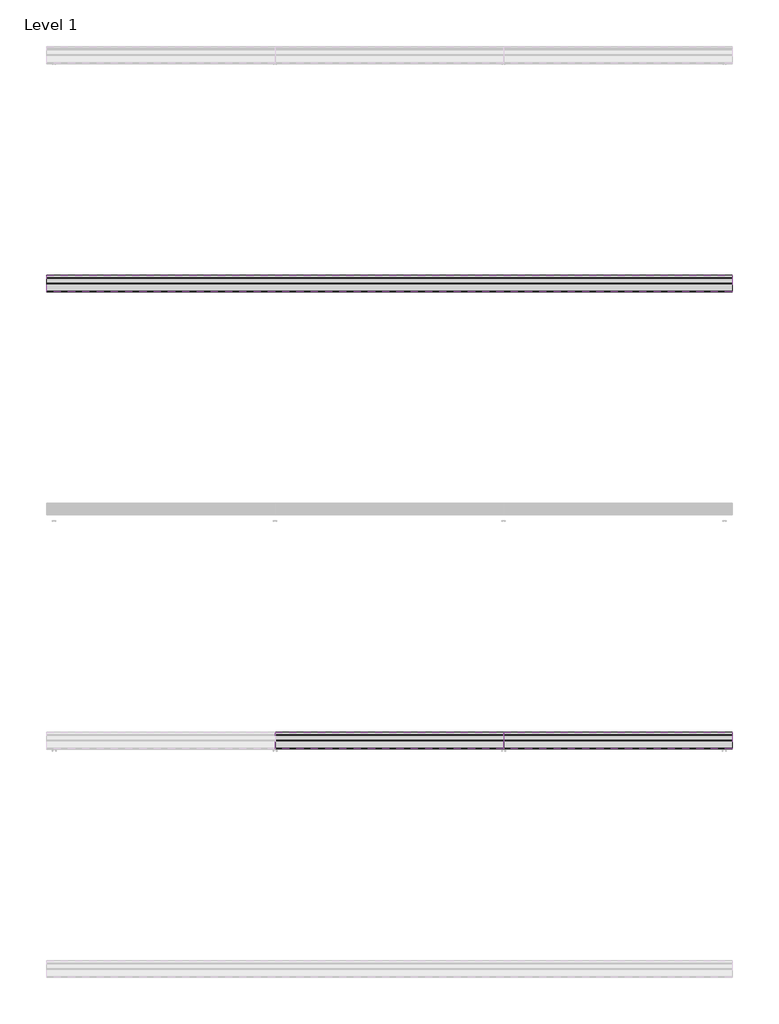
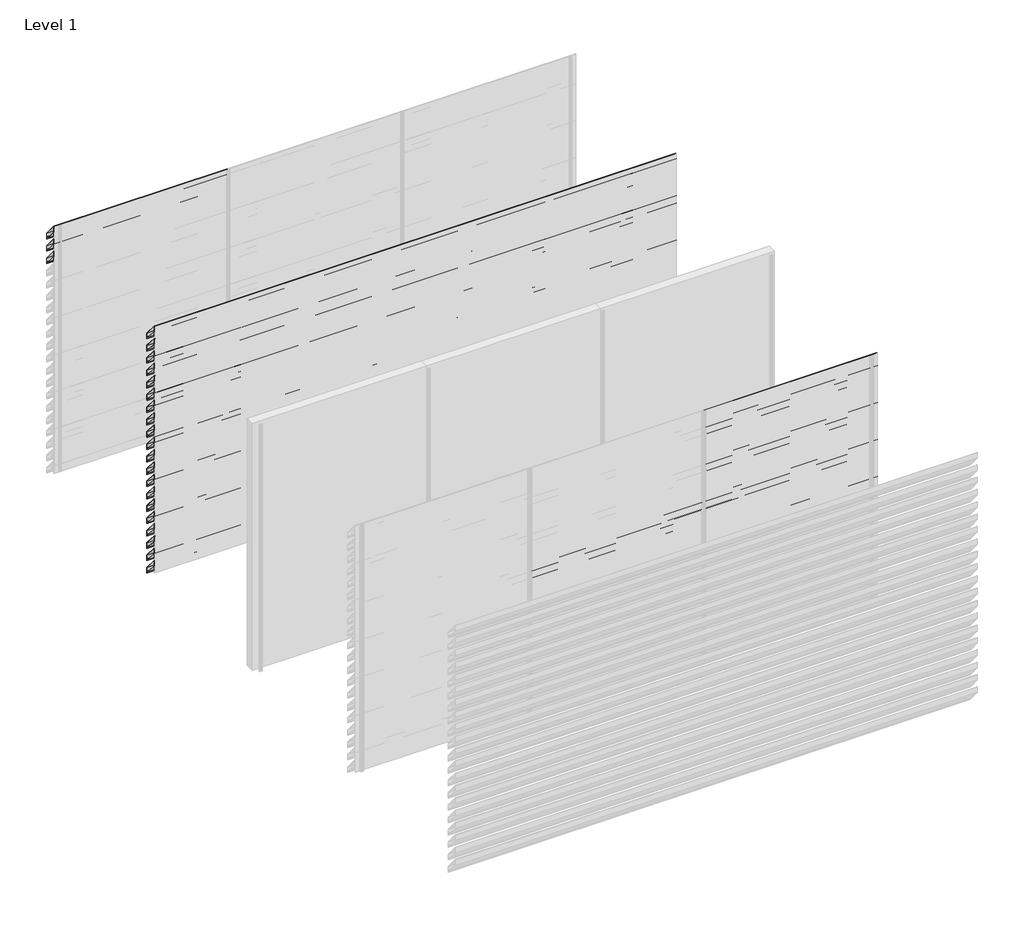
# One storey, part 15 of 16: 56 proxies.
"""IFC4 building model written with IfcOpenShell, lengths in millimetres."""

from ifc_helpers import new_model, si_unit, frame, origin, place, context, project, spatial, polyline, outline, extrude, element, save

model = new_model("IFC4")

# Units and contexts
model_context = context("Model", 3, world=origin())
ifc_project = project(units=[si_unit("LENGTHUNIT", "METRE", prefix="MILLI")], contexts=[model_context])

# Site, building, storey
site = spatial("IfcSite", under=ifc_project)
building = spatial("IfcBuilding", under=site)
storey = spatial("IfcBuildingStorey", under=building, Name="Level 1", Elevation=0.0)

# Proxies
placement = place(None, origin())
element("IfcBuildingElementProxy", 1, Name="Wall Sweeps", at=placement, inside=storey, context=model_context, shape_type="SweptSolid", body=[
    extrude(outline(polyline([(149.0, 2830.0), (149.0, 2761.0), (146.5, 2762.1657691), (146.5, 2775.7059843), (129.7501329, 2795.6676986), (119.0648935, 2795.6676986), (2.0, 2935.1802059), (2.0, 3000.0), (6.3530627, 3000.0), (149.0, 2830.0)]), holes=[polyline([(3.9, 2998.1), (3.9, 2935.8717493), (119.950878, 2797.5676986), (130.6361175, 2797.5676986), (147.1, 2777.9468074), (147.1, 2829.3084566), (5.4670781, 2998.1), (3.9, 2998.1)])]), frame((0.0, 0.0, 0.0), z_axis=(1.0, 0.0, 0.0), x_axis=(0.0, 1.0, 0.0)), (0.0, 0.0, 1.0), 2000.0),
])
element("IfcBuildingElementProxy", 2, Name="Wall Sweeps", at=placement, inside=storey, context=model_context, shape_type="SweptSolid", body=[
    extrude(outline(polyline([(149.0, 2680.0), (149.0, 2611.0), (146.5, 2612.1657691), (146.5, 2625.7059843), (129.7501329, 2645.6676986), (119.0648935, 2645.6676986), (2.0, 2785.1802059), (2.0, 2850.0), (6.3530627, 2850.0), (149.0, 2680.0)]), holes=[polyline([(3.9, 2848.1), (3.9, 2785.8717493), (119.950878, 2647.5676986), (130.6361175, 2647.5676986), (147.1, 2627.9468074), (147.1, 2679.3084566), (5.4670781, 2848.1), (3.9, 2848.1)])]), frame((0.0, 0.0, 0.0), z_axis=(1.0, 0.0, 0.0), x_axis=(0.0, 1.0, 0.0)), (0.0, 0.0, 1.0), 2000.0),
])
element("IfcBuildingElementProxy", 3, Name="Wall Sweeps", at=placement, inside=storey, context=model_context, shape_type="SweptSolid", body=[
    extrude(outline(polyline([(149.0, 2530.0), (149.0, 2461.0), (146.5, 2462.1657691), (146.5, 2475.7059843), (129.7501329, 2495.6676986), (119.0648935, 2495.6676986), (2.0, 2635.1802059), (2.0, 2700.0), (6.3530627, 2700.0), (149.0, 2530.0)]), holes=[polyline([(3.9, 2698.1), (3.9, 2635.8717493), (119.950878, 2497.5676986), (130.6361175, 2497.5676986), (147.1, 2477.9468074), (147.1, 2529.3084566), (5.4670781, 2698.1), (3.9, 2698.1)])]), frame((0.0, 0.0, 0.0), z_axis=(1.0, 0.0, 0.0), x_axis=(0.0, 1.0, 0.0)), (0.0, 0.0, 1.0), 2000.0),
])
element("IfcBuildingElementProxy", 4, Name="Wall Sweeps", at=placement, inside=storey, context=model_context, shape_type="SweptSolid", body=[
    extrude(outline(polyline([(-1851.0, 2830.0), (-1851.0, 2761.0), (-1853.5, 2762.1657691), (-1853.5, 2775.7059843), (-1870.2498671, 2795.6676986), (-1880.9351065, 2795.6676986), (-1998.0, 2935.1802059), (-1998.0, 3000.0), (-1993.6469373, 3000.0), (-1851.0, 2830.0)]), holes=[polyline([(-1996.1, 2998.1), (-1996.1, 2935.8717493), (-1880.049122, 2797.5676986), (-1869.3638825, 2797.5676986), (-1852.9, 2777.9468074), (-1852.9, 2829.3084566), (-1994.5329219, 2998.1), (-1996.1, 2998.1)])]), frame((0.0, 0.0, 0.0), z_axis=(1.0, 0.0, 0.0), x_axis=(0.0, 1.0, 0.0)), (0.0, 0.0, 1.0), 6000.0),
])
element("IfcBuildingElementProxy", 5, Name="Wall Sweeps", at=placement, inside=storey, context=model_context, shape_type="SweptSolid", body=[
    extrude(outline(polyline([(-1851.0, 2680.0), (-1851.0, 2611.0), (-1853.5, 2612.1657691), (-1853.5, 2625.7059843), (-1870.2498671, 2645.6676986), (-1880.9351065, 2645.6676986), (-1998.0, 2785.1802059), (-1998.0, 2850.0), (-1993.6469373, 2850.0), (-1851.0, 2680.0)]), holes=[polyline([(-1996.1, 2848.1), (-1996.1, 2785.8717493), (-1880.049122, 2647.5676986), (-1869.3638825, 2647.5676986), (-1852.9, 2627.9468074), (-1852.9, 2679.3084566), (-1994.5329219, 2848.1), (-1996.1, 2848.1)])]), frame((0.0, 0.0, 0.0), z_axis=(1.0, 0.0, 0.0), x_axis=(0.0, 1.0, 0.0)), (0.0, 0.0, 1.0), 6000.0),
])
element("IfcBuildingElementProxy", 6, Name="Wall Sweeps", at=placement, inside=storey, context=model_context, shape_type="SweptSolid", body=[
    extrude(outline(polyline([(-1851.0, 2530.0), (-1851.0, 2461.0), (-1853.5, 2462.1657691), (-1853.5, 2475.7059843), (-1870.2498671, 2495.6676986), (-1880.9351065, 2495.6676986), (-1998.0, 2635.1802059), (-1998.0, 2700.0), (-1993.6469373, 2700.0), (-1851.0, 2530.0)]), holes=[polyline([(-1996.1, 2698.1), (-1996.1, 2635.8717493), (-1880.049122, 2497.5676986), (-1869.3638825, 2497.5676986), (-1852.9, 2477.9468074), (-1852.9, 2529.3084566), (-1994.5329219, 2698.1), (-1996.1, 2698.1)])]), frame((0.0, 0.0, 0.0), z_axis=(1.0, 0.0, 0.0), x_axis=(0.0, 1.0, 0.0)), (0.0, 0.0, 1.0), 6000.0),
])
element("IfcBuildingElementProxy", 7, Name="Wall Sweeps", at=placement, inside=storey, context=model_context, shape_type="SweptSolid", body=[
    extrude(outline(polyline([(-1851.0, 2380.0), (-1851.0, 2311.0), (-1853.5, 2312.1657691), (-1853.5, 2325.7059843), (-1870.2498671, 2345.6676986), (-1880.9351065, 2345.6676986), (-1998.0, 2485.1802059), (-1998.0, 2550.0), (-1993.6469373, 2550.0), (-1851.0, 2380.0)]), holes=[polyline([(-1996.1, 2548.1), (-1996.1, 2485.8717493), (-1880.049122, 2347.5676986), (-1869.3638825, 2347.5676986), (-1852.9, 2327.9468074), (-1852.9, 2379.3084566), (-1994.5329219, 2548.1), (-1996.1, 2548.1)])]), frame((0.0, 0.0, 0.0), z_axis=(1.0, 0.0, 0.0), x_axis=(0.0, 1.0, 0.0)), (0.0, 0.0, 1.0), 6000.0),
])
element("IfcBuildingElementProxy", 8, Name="Wall Sweeps", at=placement, inside=storey, context=model_context, shape_type="SweptSolid", body=[
    extrude(outline(polyline([(-1851.0, 2230.0), (-1851.0, 2161.0), (-1853.5, 2162.1657691), (-1853.5, 2175.7059843), (-1870.2498671, 2195.6676986), (-1880.9351065, 2195.6676986), (-1998.0, 2335.1802059), (-1998.0, 2400.0), (-1993.6469373, 2400.0), (-1851.0, 2230.0)]), holes=[polyline([(-1996.1, 2398.1), (-1996.1, 2335.8717493), (-1880.049122, 2197.5676986), (-1869.3638825, 2197.5676986), (-1852.9, 2177.9468074), (-1852.9, 2229.3084566), (-1994.5329219, 2398.1), (-1996.1, 2398.1)])]), frame((0.0, 0.0, 0.0), z_axis=(1.0, 0.0, 0.0), x_axis=(0.0, 1.0, 0.0)), (0.0, 0.0, 1.0), 6000.0),
])
element("IfcBuildingElementProxy", 9, Name="Wall Sweeps", at=placement, inside=storey, context=model_context, shape_type="SweptSolid", body=[
    extrude(outline(polyline([(-1851.0, 2080.0), (-1851.0, 2011.0), (-1853.5, 2012.1657691), (-1853.5, 2025.7059843), (-1870.2498671, 2045.6676986), (-1880.9351065, 2045.6676986), (-1998.0, 2185.1802059), (-1998.0, 2250.0), (-1993.6469373, 2250.0), (-1851.0, 2080.0)]), holes=[polyline([(-1996.1, 2248.1), (-1996.1, 2185.8717493), (-1880.049122, 2047.5676986), (-1869.3638825, 2047.5676986), (-1852.9, 2027.9468074), (-1852.9, 2079.3084566), (-1994.5329219, 2248.1), (-1996.1, 2248.1)])]), frame((0.0, 0.0, 0.0), z_axis=(1.0, 0.0, 0.0), x_axis=(0.0, 1.0, 0.0)), (0.0, 0.0, 1.0), 6000.0),
])
element("IfcBuildingElementProxy", 10, Name="Wall Sweeps", at=placement, inside=storey, context=model_context, shape_type="SweptSolid", body=[
    extrude(outline(polyline([(-1851.0, 1930.0), (-1851.0, 1861.0), (-1853.5, 1862.1657691), (-1853.5, 1875.7059843), (-1870.2498671, 1895.6676986), (-1880.9351065, 1895.6676986), (-1998.0, 2035.1802059), (-1998.0, 2100.0), (-1993.6469373, 2100.0), (-1851.0, 1930.0)]), holes=[polyline([(-1996.1, 2098.1), (-1996.1, 2035.8717493), (-1880.049122, 1897.5676986), (-1869.3638825, 1897.5676986), (-1852.9, 1877.9468074), (-1852.9, 1929.3084566), (-1994.5329219, 2098.1), (-1996.1, 2098.1)])]), frame((0.0, 0.0, 0.0), z_axis=(1.0, 0.0, 0.0), x_axis=(0.0, 1.0, 0.0)), (0.0, 0.0, 1.0), 6000.0),
])
element("IfcBuildingElementProxy", 11, Name="Wall Sweeps", at=placement, inside=storey, context=model_context, shape_type="SweptSolid", body=[
    extrude(outline(polyline([(-1851.0, 1780.0), (-1851.0, 1711.0), (-1853.5, 1712.1657691), (-1853.5, 1725.7059843), (-1870.2498671, 1745.6676986), (-1880.9351065, 1745.6676986), (-1998.0, 1885.1802059), (-1998.0, 1950.0), (-1993.6469373, 1950.0), (-1851.0, 1780.0)]), holes=[polyline([(-1996.1, 1948.1), (-1996.1, 1885.8717493), (-1880.049122, 1747.5676986), (-1869.3638825, 1747.5676986), (-1852.9, 1727.9468074), (-1852.9, 1779.3084566), (-1994.5329219, 1948.1), (-1996.1, 1948.1)])]), frame((0.0, 0.0, 0.0), z_axis=(1.0, 0.0, 0.0), x_axis=(0.0, 1.0, 0.0)), (0.0, 0.0, 1.0), 6000.0),
])
element("IfcBuildingElementProxy", 12, Name="Wall Sweeps", at=placement, inside=storey, context=model_context, shape_type="SweptSolid", body=[
    extrude(outline(polyline([(-1851.0, 1630.0), (-1851.0, 1561.0), (-1853.5, 1562.1657691), (-1853.5, 1575.7059843), (-1870.2498671, 1595.6676986), (-1880.9351065, 1595.6676986), (-1998.0, 1735.1802059), (-1998.0, 1800.0), (-1993.6469373, 1800.0), (-1851.0, 1630.0)]), holes=[polyline([(-1996.1, 1798.1), (-1996.1, 1735.8717493), (-1880.049122, 1597.5676986), (-1869.3638825, 1597.5676986), (-1852.9, 1577.9468074), (-1852.9, 1629.3084566), (-1994.5329219, 1798.1), (-1996.1, 1798.1)])]), frame((0.0, 0.0, 0.0), z_axis=(1.0, 0.0, 0.0), x_axis=(0.0, 1.0, 0.0)), (0.0, 0.0, 1.0), 6000.0),
])
element("IfcBuildingElementProxy", 13, Name="Wall Sweeps", at=placement, inside=storey, context=model_context, shape_type="SweptSolid", body=[
    extrude(outline(polyline([(-1851.0, 1480.0), (-1851.0, 1411.0), (-1853.5, 1412.1657691), (-1853.5, 1425.7059843), (-1870.2498671, 1445.6676986), (-1880.9351065, 1445.6676986), (-1998.0, 1585.1802059), (-1998.0, 1650.0), (-1993.6469373, 1650.0), (-1851.0, 1480.0)]), holes=[polyline([(-1996.1, 1648.1), (-1996.1, 1585.8717493), (-1880.049122, 1447.5676986), (-1869.3638825, 1447.5676986), (-1852.9, 1427.9468074), (-1852.9, 1479.3084566), (-1994.5329219, 1648.1), (-1996.1, 1648.1)])]), frame((0.0, 0.0, 0.0), z_axis=(1.0, 0.0, 0.0), x_axis=(0.0, 1.0, 0.0)), (0.0, 0.0, 1.0), 6000.0),
])
element("IfcBuildingElementProxy", 14, Name="Wall Sweeps", at=placement, inside=storey, context=model_context, shape_type="SweptSolid", body=[
    extrude(outline(polyline([(-1851.0, 1330.0), (-1851.0, 1261.0), (-1853.5, 1262.1657691), (-1853.5, 1275.7059843), (-1870.2498671, 1295.6676986), (-1880.9351065, 1295.6676986), (-1998.0, 1435.1802059), (-1998.0, 1500.0), (-1993.6469373, 1500.0), (-1851.0, 1330.0)]), holes=[polyline([(-1996.1, 1498.1), (-1996.1, 1435.8717493), (-1880.049122, 1297.5676986), (-1869.3638825, 1297.5676986), (-1852.9, 1277.9468074), (-1852.9, 1329.3084566), (-1994.5329219, 1498.1), (-1996.1, 1498.1)])]), frame((0.0, 0.0, 0.0), z_axis=(1.0, 0.0, 0.0), x_axis=(0.0, 1.0, 0.0)), (0.0, 0.0, 1.0), 6000.0),
])
element("IfcBuildingElementProxy", 15, Name="Wall Sweeps", at=placement, inside=storey, context=model_context, shape_type="SweptSolid", body=[
    extrude(outline(polyline([(-1851.0, 1180.0), (-1851.0, 1111.0), (-1853.5, 1112.1657691), (-1853.5, 1125.7059843), (-1870.2498671, 1145.6676986), (-1880.9351065, 1145.6676986), (-1998.0, 1285.1802059), (-1998.0, 1350.0), (-1993.6469373, 1350.0), (-1851.0, 1180.0)]), holes=[polyline([(-1996.1, 1348.1), (-1996.1, 1285.8717493), (-1880.049122, 1147.5676986), (-1869.3638825, 1147.5676986), (-1852.9, 1127.9468074), (-1852.9, 1179.3084566), (-1994.5329219, 1348.1), (-1996.1, 1348.1)])]), frame((0.0, 0.0, 0.0), z_axis=(1.0, 0.0, 0.0), x_axis=(0.0, 1.0, 0.0)), (0.0, 0.0, 1.0), 6000.0),
])
element("IfcBuildingElementProxy", 16, Name="Wall Sweeps", at=placement, inside=storey, context=model_context, shape_type="SweptSolid", body=[
    extrude(outline(polyline([(-1851.0, 1030.0), (-1851.0, 961.0), (-1853.5, 962.1657691), (-1853.5, 975.7059843), (-1870.2498671, 995.6676986), (-1880.9351065, 995.6676986), (-1998.0, 1135.1802059), (-1998.0, 1200.0), (-1993.6469373, 1200.0), (-1851.0, 1030.0)]), holes=[polyline([(-1996.1, 1198.1), (-1996.1, 1135.8717493), (-1880.049122, 997.5676986), (-1869.3638825, 997.5676986), (-1852.9, 977.9468074), (-1852.9, 1029.3084566), (-1994.5329219, 1198.1), (-1996.1, 1198.1)])]), frame((0.0, 0.0, 0.0), z_axis=(1.0, 0.0, 0.0), x_axis=(0.0, 1.0, 0.0)), (0.0, 0.0, 1.0), 6000.0),
])
element("IfcBuildingElementProxy", 17, Name="Wall Sweeps", at=placement, inside=storey, context=model_context, shape_type="SweptSolid", body=[
    extrude(outline(polyline([(-1851.0, 880.0), (-1851.0, 811.0), (-1853.5, 812.1657691), (-1853.5, 825.7059843), (-1870.2498671, 845.6676986), (-1880.9351065, 845.6676986), (-1998.0, 985.1802059), (-1998.0, 1050.0), (-1993.6469373, 1050.0), (-1851.0, 880.0)]), holes=[polyline([(-1996.1, 1048.1), (-1996.1, 985.8717493), (-1880.049122, 847.5676986), (-1869.3638825, 847.5676986), (-1852.9, 827.9468074), (-1852.9, 879.3084566), (-1994.5329219, 1048.1), (-1996.1, 1048.1)])]), frame((0.0, 0.0, 0.0), z_axis=(1.0, 0.0, 0.0), x_axis=(0.0, 1.0, 0.0)), (0.0, 0.0, 1.0), 6000.0),
])
element("IfcBuildingElementProxy", 18, Name="Wall Sweeps", at=placement, inside=storey, context=model_context, shape_type="SweptSolid", body=[
    extrude(outline(polyline([(-1851.0, 730.0), (-1851.0, 661.0), (-1853.5, 662.1657691), (-1853.5, 675.7059843), (-1870.2498671, 695.6676986), (-1880.9351065, 695.6676986), (-1998.0, 835.1802059), (-1998.0, 900.0), (-1993.6469373, 900.0), (-1851.0, 730.0)]), holes=[polyline([(-1996.1, 898.1), (-1996.1, 835.8717493), (-1880.049122, 697.5676986), (-1869.3638825, 697.5676986), (-1852.9, 677.9468074), (-1852.9, 729.3084566), (-1994.5329219, 898.1), (-1996.1, 898.1)])]), frame((0.0, 0.0, 0.0), z_axis=(1.0, 0.0, 0.0), x_axis=(0.0, 1.0, 0.0)), (0.0, 0.0, 1.0), 6000.0),
])
element("IfcBuildingElementProxy", 19, Name="Wall Sweeps", at=placement, inside=storey, context=model_context, shape_type="SweptSolid", body=[
    extrude(outline(polyline([(-1851.0, 580.0), (-1851.0, 511.0), (-1853.5, 512.1657691), (-1853.5, 525.7059843), (-1870.2498671, 545.6676986), (-1880.9351065, 545.6676986), (-1998.0, 685.1802059), (-1998.0, 750.0), (-1993.6469373, 750.0), (-1851.0, 580.0)]), holes=[polyline([(-1996.1, 748.1), (-1996.1, 685.8717493), (-1880.049122, 547.5676986), (-1869.3638825, 547.5676986), (-1852.9, 527.9468074), (-1852.9, 579.3084566), (-1994.5329219, 748.1), (-1996.1, 748.1)])]), frame((0.0, 0.0, 0.0), z_axis=(1.0, 0.0, 0.0), x_axis=(0.0, 1.0, 0.0)), (0.0, 0.0, 1.0), 6000.0),
])
element("IfcBuildingElementProxy", 20, Name="Wall Sweeps", at=placement, inside=storey, context=model_context, shape_type="SweptSolid", body=[
    extrude(outline(polyline([(-1851.0, 430.0), (-1851.0, 361.0), (-1853.5, 362.1657691), (-1853.5, 375.7059843), (-1870.2498671, 395.6676986), (-1880.9351065, 395.6676986), (-1998.0, 535.1802059), (-1998.0, 600.0), (-1993.6469373, 600.0), (-1851.0, 430.0)]), holes=[polyline([(-1996.1, 598.1), (-1996.1, 535.8717493), (-1880.049122, 397.5676986), (-1869.3638825, 397.5676986), (-1852.9, 377.9468074), (-1852.9, 429.3084566), (-1994.5329219, 598.1), (-1996.1, 598.1)])]), frame((0.0, 0.0, 0.0), z_axis=(1.0, 0.0, 0.0), x_axis=(0.0, 1.0, 0.0)), (0.0, 0.0, 1.0), 6000.0),
])
element("IfcBuildingElementProxy", 21, Name="Wall Sweeps", at=placement, inside=storey, context=model_context, shape_type="SweptSolid", body=[
    extrude(outline(polyline([(-1851.0, 280.0), (-1851.0, 211.0), (-1853.5, 212.1657691), (-1853.5, 225.7059843), (-1870.2498671, 245.6676986), (-1880.9351065, 245.6676986), (-1998.0, 385.1802059), (-1998.0, 450.0), (-1993.6469373, 450.0), (-1851.0, 280.0)]), holes=[polyline([(-1996.1, 448.1), (-1996.1, 385.8717493), (-1880.049122, 247.5676986), (-1869.3638825, 247.5676986), (-1852.9, 227.9468074), (-1852.9, 279.3084566), (-1994.5329219, 448.1), (-1996.1, 448.1)])]), frame((0.0, 0.0, 0.0), z_axis=(1.0, 0.0, 0.0), x_axis=(0.0, 1.0, 0.0)), (0.0, 0.0, 1.0), 6000.0),
])
element("IfcBuildingElementProxy", 22, Name="Wall Sweeps", at=placement, inside=storey, context=model_context, shape_type="SweptSolid", body=[
    extrude(outline(polyline([(-1851.0, 130.0), (-1851.0, 61.0), (-1853.5, 62.1657691), (-1853.5, 75.7059843), (-1870.2498671, 95.6676986), (-1880.9351065, 95.6676986), (-1998.0, 235.1802059), (-1998.0, 300.0), (-1993.6469373, 300.0), (-1851.0, 130.0)]), holes=[polyline([(-1996.1, 298.1), (-1996.1, 235.8717493), (-1880.049122, 97.5676986), (-1869.3638825, 97.5676986), (-1852.9, 77.9468074), (-1852.9, 129.3084566), (-1994.5329219, 298.1), (-1996.1, 298.1)])]), frame((0.0, 0.0, 0.0), z_axis=(1.0, 0.0, 0.0), x_axis=(0.0, 1.0, 0.0)), (0.0, 0.0, 1.0), 6000.0),
])
element("IfcBuildingElementProxy", 23, Name="Wall Sweeps", at=placement, inside=storey, context=model_context, shape_type="SweptSolid", body=[
    extrude(outline(polyline([(-1851.0, -20.0), (-1851.0, -89.0), (-1853.5, -87.8342309), (-1853.5, -74.2940157), (-1870.2498671, -54.3323014), (-1880.9351065, -54.3323014), (-1998.0, 85.1802059), (-1998.0, 150.0), (-1993.6469373, 150.0), (-1851.0, -20.0)]), holes=[polyline([(-1996.1, 148.1), (-1996.1, 85.8717493), (-1880.049122, -52.4323014), (-1869.3638825, -52.4323014), (-1852.9, -72.0531926), (-1852.9, -20.6915434), (-1994.5329219, 148.1), (-1996.1, 148.1)])]), frame((0.0, 0.0, 0.0), z_axis=(1.0, 0.0, 0.0), x_axis=(0.0, 1.0, 0.0)), (0.0, 0.0, 1.0), 6000.0),
])
element("IfcBuildingElementProxy", 24, Name="Wall Sweeps", at=placement, inside=storey, context=model_context, shape_type="SweptSolid", body=[
    extrude(outline(polyline([(-5851.0, 1780.0), (-5851.0, 1711.0), (-5853.5, 1712.1657691), (-5853.5, 1725.7059843), (-5870.2498671, 1745.6676986), (-5880.9351065, 1745.6676986), (-5998.0, 1885.1802059), (-5998.0, 1950.0), (-5993.6469373, 1950.0), (-5851.0, 1780.0)]), holes=[polyline([(-5996.1, 1948.1), (-5996.1, 1885.8717493), (-5880.049122, 1747.5676986), (-5869.3638825, 1747.5676986), (-5852.9, 1727.9468074), (-5852.9, 1779.3084566), (-5994.5329219, 1948.1), (-5996.1, 1948.1)])]), frame((2000.0, 0.0, 0.0), z_axis=(1.0, 0.0, 0.0), x_axis=(0.0, 1.0, 0.0)), (0.0, 0.0, 1.0), 2000.0),
])
element("IfcBuildingElementProxy", 25, Name="Wall Sweeps", at=placement, inside=storey, context=model_context, shape_type="SweptSolid", body=[
    extrude(outline(polyline([(-5851.0, 1630.0), (-5851.0, 1561.0), (-5853.5, 1562.1657691), (-5853.5, 1575.7059843), (-5870.2498671, 1595.6676986), (-5880.9351065, 1595.6676986), (-5998.0, 1735.1802059), (-5998.0, 1800.0), (-5993.6469373, 1800.0), (-5851.0, 1630.0)]), holes=[polyline([(-5996.1, 1798.1), (-5996.1, 1735.8717493), (-5880.049122, 1597.5676986), (-5869.3638825, 1597.5676986), (-5852.9, 1577.9468074), (-5852.9, 1629.3084566), (-5994.5329219, 1798.1), (-5996.1, 1798.1)])]), frame((2000.0, 0.0, 0.0), z_axis=(1.0, 0.0, 0.0), x_axis=(0.0, 1.0, 0.0)), (0.0, 0.0, 1.0), 2000.0),
])
element("IfcBuildingElementProxy", 26, Name="Wall Sweeps", at=placement, inside=storey, context=model_context, shape_type="SweptSolid", body=[
    extrude(outline(polyline([(-5851.0, 1480.0), (-5851.0, 1411.0), (-5853.5, 1412.1657691), (-5853.5, 1425.7059843), (-5870.2498671, 1445.6676986), (-5880.9351065, 1445.6676986), (-5998.0, 1585.1802059), (-5998.0, 1650.0), (-5993.6469373, 1650.0), (-5851.0, 1480.0)]), holes=[polyline([(-5996.1, 1648.1), (-5996.1, 1585.8717493), (-5880.049122, 1447.5676986), (-5869.3638825, 1447.5676986), (-5852.9, 1427.9468074), (-5852.9, 1479.3084566), (-5994.5329219, 1648.1), (-5996.1, 1648.1)])]), frame((2000.0, 0.0, 0.0), z_axis=(1.0, 0.0, 0.0), x_axis=(0.0, 1.0, 0.0)), (0.0, 0.0, 1.0), 2000.0),
])
element("IfcBuildingElementProxy", 27, Name="Wall Sweeps", at=placement, inside=storey, context=model_context, shape_type="SweptSolid", body=[
    extrude(outline(polyline([(-5851.0, 1330.0), (-5851.0, 1261.0), (-5853.5, 1262.1657691), (-5853.5, 1275.7059843), (-5870.2498671, 1295.6676986), (-5880.9351065, 1295.6676986), (-5998.0, 1435.1802059), (-5998.0, 1500.0), (-5993.6469373, 1500.0), (-5851.0, 1330.0)]), holes=[polyline([(-5996.1, 1498.1), (-5996.1, 1435.8717493), (-5880.049122, 1297.5676986), (-5869.3638825, 1297.5676986), (-5852.9, 1277.9468074), (-5852.9, 1329.3084566), (-5994.5329219, 1498.1), (-5996.1, 1498.1)])]), frame((2000.0, 0.0, 0.0), z_axis=(1.0, 0.0, 0.0), x_axis=(0.0, 1.0, 0.0)), (0.0, 0.0, 1.0), 2000.0),
])
element("IfcBuildingElementProxy", 28, Name="Wall Sweeps", at=placement, inside=storey, context=model_context, shape_type="SweptSolid", body=[
    extrude(outline(polyline([(-5851.0, 1180.0), (-5851.0, 1111.0), (-5853.5, 1112.1657691), (-5853.5, 1125.7059843), (-5870.2498671, 1145.6676986), (-5880.9351065, 1145.6676986), (-5998.0, 1285.1802059), (-5998.0, 1350.0), (-5993.6469373, 1350.0), (-5851.0, 1180.0)]), holes=[polyline([(-5996.1, 1348.1), (-5996.1, 1285.8717493), (-5880.049122, 1147.5676986), (-5869.3638825, 1147.5676986), (-5852.9, 1127.9468074), (-5852.9, 1179.3084566), (-5994.5329219, 1348.1), (-5996.1, 1348.1)])]), frame((2000.0, 0.0, 0.0), z_axis=(1.0, 0.0, 0.0), x_axis=(0.0, 1.0, 0.0)), (0.0, 0.0, 1.0), 2000.0),
])
element("IfcBuildingElementProxy", 29, Name="Wall Sweeps", at=placement, inside=storey, context=model_context, shape_type="SweptSolid", body=[
    extrude(outline(polyline([(-5851.0, 1030.0), (-5851.0, 961.0), (-5853.5, 962.1657691), (-5853.5, 975.7059843), (-5870.2498671, 995.6676986), (-5880.9351065, 995.6676986), (-5998.0, 1135.1802059), (-5998.0, 1200.0), (-5993.6469373, 1200.0), (-5851.0, 1030.0)]), holes=[polyline([(-5996.1, 1198.1), (-5996.1, 1135.8717493), (-5880.049122, 997.5676986), (-5869.3638825, 997.5676986), (-5852.9, 977.9468074), (-5852.9, 1029.3084566), (-5994.5329219, 1198.1), (-5996.1, 1198.1)])]), frame((2000.0, 0.0, 0.0), z_axis=(1.0, 0.0, 0.0), x_axis=(0.0, 1.0, 0.0)), (0.0, 0.0, 1.0), 2000.0),
])
element("IfcBuildingElementProxy", 30, Name="Wall Sweeps", at=placement, inside=storey, context=model_context, shape_type="SweptSolid", body=[
    extrude(outline(polyline([(-5851.0, 880.0), (-5851.0, 811.0), (-5853.5, 812.1657691), (-5853.5, 825.7059843), (-5870.2498671, 845.6676986), (-5880.9351065, 845.6676986), (-5998.0, 985.1802059), (-5998.0, 1050.0), (-5993.6469373, 1050.0), (-5851.0, 880.0)]), holes=[polyline([(-5996.1, 1048.1), (-5996.1, 985.8717493), (-5880.049122, 847.5676986), (-5869.3638825, 847.5676986), (-5852.9, 827.9468074), (-5852.9, 879.3084566), (-5994.5329219, 1048.1), (-5996.1, 1048.1)])]), frame((2000.0, 0.0, 0.0), z_axis=(1.0, 0.0, 0.0), x_axis=(0.0, 1.0, 0.0)), (0.0, 0.0, 1.0), 2000.0),
])
element("IfcBuildingElementProxy", 31, Name="Wall Sweeps", at=placement, inside=storey, context=model_context, shape_type="SweptSolid", body=[
    extrude(outline(polyline([(-5851.0, 730.0), (-5851.0, 661.0), (-5853.5, 662.1657691), (-5853.5, 675.7059843), (-5870.2498671, 695.6676986), (-5880.9351065, 695.6676986), (-5998.0, 835.1802059), (-5998.0, 900.0), (-5993.6469373, 900.0), (-5851.0, 730.0)]), holes=[polyline([(-5996.1, 898.1), (-5996.1, 835.8717493), (-5880.049122, 697.5676986), (-5869.3638825, 697.5676986), (-5852.9, 677.9468074), (-5852.9, 729.3084566), (-5994.5329219, 898.1), (-5996.1, 898.1)])]), frame((2000.0, 0.0, 0.0), z_axis=(1.0, 0.0, 0.0), x_axis=(0.0, 1.0, 0.0)), (0.0, 0.0, 1.0), 2000.0),
])
element("IfcBuildingElementProxy", 32, Name="Wall Sweeps", at=placement, inside=storey, context=model_context, shape_type="SweptSolid", body=[
    extrude(outline(polyline([(-5851.0, 580.0), (-5851.0, 511.0), (-5853.5, 512.1657691), (-5853.5, 525.7059843), (-5870.2498671, 545.6676986), (-5880.9351065, 545.6676986), (-5998.0, 685.1802059), (-5998.0, 750.0), (-5993.6469373, 750.0), (-5851.0, 580.0)]), holes=[polyline([(-5996.1, 748.1), (-5996.1, 685.8717493), (-5880.049122, 547.5676986), (-5869.3638825, 547.5676986), (-5852.9, 527.9468074), (-5852.9, 579.3084566), (-5994.5329219, 748.1), (-5996.1, 748.1)])]), frame((2000.0, 0.0, 0.0), z_axis=(1.0, 0.0, 0.0), x_axis=(0.0, 1.0, 0.0)), (0.0, 0.0, 1.0), 2000.0),
])
element("IfcBuildingElementProxy", 33, Name="Wall Sweeps", at=placement, inside=storey, context=model_context, shape_type="SweptSolid", body=[
    extrude(outline(polyline([(-5851.0, 430.0), (-5851.0, 361.0), (-5853.5, 362.1657691), (-5853.5, 375.7059843), (-5870.2498671, 395.6676986), (-5880.9351065, 395.6676986), (-5998.0, 535.1802059), (-5998.0, 600.0), (-5993.6469373, 600.0), (-5851.0, 430.0)]), holes=[polyline([(-5996.1, 598.1), (-5996.1, 535.8717493), (-5880.049122, 397.5676986), (-5869.3638825, 397.5676986), (-5852.9, 377.9468074), (-5852.9, 429.3084566), (-5994.5329219, 598.1), (-5996.1, 598.1)])]), frame((2000.0, 0.0, 0.0), z_axis=(1.0, 0.0, 0.0), x_axis=(0.0, 1.0, 0.0)), (0.0, 0.0, 1.0), 2000.0),
])
element("IfcBuildingElementProxy", 34, Name="Wall Sweeps", at=placement, inside=storey, context=model_context, shape_type="SweptSolid", body=[
    extrude(outline(polyline([(-5851.0, 280.0), (-5851.0, 211.0), (-5853.5, 212.1657691), (-5853.5, 225.7059843), (-5870.2498671, 245.6676986), (-5880.9351065, 245.6676986), (-5998.0, 385.1802059), (-5998.0, 450.0), (-5993.6469373, 450.0), (-5851.0, 280.0)]), holes=[polyline([(-5996.1, 448.1), (-5996.1, 385.8717493), (-5880.049122, 247.5676986), (-5869.3638825, 247.5676986), (-5852.9, 227.9468074), (-5852.9, 279.3084566), (-5994.5329219, 448.1), (-5996.1, 448.1)])]), frame((2000.0, 0.0, 0.0), z_axis=(1.0, 0.0, 0.0), x_axis=(0.0, 1.0, 0.0)), (0.0, 0.0, 1.0), 2000.0),
])
element("IfcBuildingElementProxy", 35, Name="Wall Sweeps", at=placement, inside=storey, context=model_context, shape_type="SweptSolid", body=[
    extrude(outline(polyline([(-5851.0, 130.0), (-5851.0, 61.0), (-5853.5, 62.1657691), (-5853.5, 75.7059843), (-5870.2498671, 95.6676986), (-5880.9351065, 95.6676986), (-5998.0, 235.1802059), (-5998.0, 300.0), (-5993.6469373, 300.0), (-5851.0, 130.0)]), holes=[polyline([(-5996.1, 298.1), (-5996.1, 235.8717493), (-5880.049122, 97.5676986), (-5869.3638825, 97.5676986), (-5852.9, 77.9468074), (-5852.9, 129.3084566), (-5994.5329219, 298.1), (-5996.1, 298.1)])]), frame((2000.0, 0.0, 0.0), z_axis=(1.0, 0.0, 0.0), x_axis=(0.0, 1.0, 0.0)), (0.0, 0.0, 1.0), 2000.0),
])
element("IfcBuildingElementProxy", 36, Name="Wall Sweeps", at=placement, inside=storey, context=model_context, shape_type="SweptSolid", body=[
    extrude(outline(polyline([(-5851.0, -20.0), (-5851.0, -89.0), (-5853.5, -87.8342309), (-5853.5, -74.2940157), (-5870.2498671, -54.3323014), (-5880.9351065, -54.3323014), (-5998.0, 85.1802059), (-5998.0, 150.0), (-5993.6469373, 150.0), (-5851.0, -20.0)]), holes=[polyline([(-5996.1, 148.1), (-5996.1, 85.8717493), (-5880.049122, -52.4323014), (-5869.3638825, -52.4323014), (-5852.9, -72.0531926), (-5852.9, -20.6915434), (-5994.5329219, 148.1), (-5996.1, 148.1)])]), frame((2000.0, 0.0, 0.0), z_axis=(1.0, 0.0, 0.0), x_axis=(0.0, 1.0, 0.0)), (0.0, 0.0, 1.0), 2000.0),
])
element("IfcBuildingElementProxy", 37, Name="Wall Sweeps", at=placement, inside=storey, context=model_context, shape_type="SweptSolid", body=[
    extrude(outline(polyline([(-5851.0, 2830.0), (-5851.0, 2761.0), (-5853.5, 2762.1657691), (-5853.5, 2775.7059843), (-5870.2498671, 2795.6676986), (-5880.9351065, 2795.6676986), (-5998.0, 2935.1802059), (-5998.0, 3000.0), (-5993.6469373, 3000.0), (-5851.0, 2830.0)]), holes=[polyline([(-5996.1, 2998.1), (-5996.1, 2935.8717493), (-5880.049122, 2797.5676986), (-5869.3638825, 2797.5676986), (-5852.9, 2777.9468074), (-5852.9, 2829.3084566), (-5994.5329219, 2998.1), (-5996.1, 2998.1)])]), frame((4000.0, 0.0, 0.0), z_axis=(1.0, 0.0, 0.0), x_axis=(0.0, 1.0, 0.0)), (0.0, 0.0, 1.0), 2000.0),
])
element("IfcBuildingElementProxy", 38, Name="Wall Sweeps", at=placement, inside=storey, context=model_context, shape_type="SweptSolid", body=[
    extrude(outline(polyline([(-5851.0, 2680.0), (-5851.0, 2611.0), (-5853.5, 2612.1657691), (-5853.5, 2625.7059843), (-5870.2498671, 2645.6676986), (-5880.9351065, 2645.6676986), (-5998.0, 2785.1802059), (-5998.0, 2850.0), (-5993.6469373, 2850.0), (-5851.0, 2680.0)]), holes=[polyline([(-5996.1, 2848.1), (-5996.1, 2785.8717493), (-5880.049122, 2647.5676986), (-5869.3638825, 2647.5676986), (-5852.9, 2627.9468074), (-5852.9, 2679.3084566), (-5994.5329219, 2848.1), (-5996.1, 2848.1)])]), frame((4000.0, 0.0, 0.0), z_axis=(1.0, 0.0, 0.0), x_axis=(0.0, 1.0, 0.0)), (0.0, 0.0, 1.0), 2000.0),
])
element("IfcBuildingElementProxy", 39, Name="Wall Sweeps", at=placement, inside=storey, context=model_context, shape_type="SweptSolid", body=[
    extrude(outline(polyline([(-5851.0, 2530.0), (-5851.0, 2461.0), (-5853.5, 2462.1657691), (-5853.5, 2475.7059843), (-5870.2498671, 2495.6676986), (-5880.9351065, 2495.6676986), (-5998.0, 2635.1802059), (-5998.0, 2700.0), (-5993.6469373, 2700.0), (-5851.0, 2530.0)]), holes=[polyline([(-5996.1, 2698.1), (-5996.1, 2635.8717493), (-5880.049122, 2497.5676986), (-5869.3638825, 2497.5676986), (-5852.9, 2477.9468074), (-5852.9, 2529.3084566), (-5994.5329219, 2698.1), (-5996.1, 2698.1)])]), frame((4000.0, 0.0, 0.0), z_axis=(1.0, 0.0, 0.0), x_axis=(0.0, 1.0, 0.0)), (0.0, 0.0, 1.0), 2000.0),
])
element("IfcBuildingElementProxy", 40, Name="Wall Sweeps", at=placement, inside=storey, context=model_context, shape_type="SweptSolid", body=[
    extrude(outline(polyline([(-5851.0, 2380.0), (-5851.0, 2311.0), (-5853.5, 2312.1657691), (-5853.5, 2325.7059843), (-5870.2498671, 2345.6676986), (-5880.9351065, 2345.6676986), (-5998.0, 2485.1802059), (-5998.0, 2550.0), (-5993.6469373, 2550.0), (-5851.0, 2380.0)]), holes=[polyline([(-5996.1, 2548.1), (-5996.1, 2485.8717493), (-5880.049122, 2347.5676986), (-5869.3638825, 2347.5676986), (-5852.9, 2327.9468074), (-5852.9, 2379.3084566), (-5994.5329219, 2548.1), (-5996.1, 2548.1)])]), frame((4000.0, 0.0, 0.0), z_axis=(1.0, 0.0, 0.0), x_axis=(0.0, 1.0, 0.0)), (0.0, 0.0, 1.0), 2000.0),
])
element("IfcBuildingElementProxy", 41, Name="Wall Sweeps", at=placement, inside=storey, context=model_context, shape_type="SweptSolid", body=[
    extrude(outline(polyline([(-5851.0, 2230.0), (-5851.0, 2161.0), (-5853.5, 2162.1657691), (-5853.5, 2175.7059843), (-5870.2498671, 2195.6676986), (-5880.9351065, 2195.6676986), (-5998.0, 2335.1802059), (-5998.0, 2400.0), (-5993.6469373, 2400.0), (-5851.0, 2230.0)]), holes=[polyline([(-5996.1, 2398.1), (-5996.1, 2335.8717493), (-5880.049122, 2197.5676986), (-5869.3638825, 2197.5676986), (-5852.9, 2177.9468074), (-5852.9, 2229.3084566), (-5994.5329219, 2398.1), (-5996.1, 2398.1)])]), frame((4000.0, 0.0, 0.0), z_axis=(1.0, 0.0, 0.0), x_axis=(0.0, 1.0, 0.0)), (0.0, 0.0, 1.0), 2000.0),
])
element("IfcBuildingElementProxy", 42, Name="Wall Sweeps", at=placement, inside=storey, context=model_context, shape_type="SweptSolid", body=[
    extrude(outline(polyline([(-5851.0, 2080.0), (-5851.0, 2011.0), (-5853.5, 2012.1657691), (-5853.5, 2025.7059843), (-5870.2498671, 2045.6676986), (-5880.9351065, 2045.6676986), (-5998.0, 2185.1802059), (-5998.0, 2250.0), (-5993.6469373, 2250.0), (-5851.0, 2080.0)]), holes=[polyline([(-5996.1, 2248.1), (-5996.1, 2185.8717493), (-5880.049122, 2047.5676986), (-5869.3638825, 2047.5676986), (-5852.9, 2027.9468074), (-5852.9, 2079.3084566), (-5994.5329219, 2248.1), (-5996.1, 2248.1)])]), frame((4000.0, 0.0, 0.0), z_axis=(1.0, 0.0, 0.0), x_axis=(0.0, 1.0, 0.0)), (0.0, 0.0, 1.0), 2000.0),
])
element("IfcBuildingElementProxy", 43, Name="Wall Sweeps", at=placement, inside=storey, context=model_context, shape_type="SweptSolid", body=[
    extrude(outline(polyline([(-5851.0, 1930.0), (-5851.0, 1861.0), (-5853.5, 1862.1657691), (-5853.5, 1875.7059843), (-5870.2498671, 1895.6676986), (-5880.9351065, 1895.6676986), (-5998.0, 2035.1802059), (-5998.0, 2100.0), (-5993.6469373, 2100.0), (-5851.0, 1930.0)]), holes=[polyline([(-5996.1, 2098.1), (-5996.1, 2035.8717493), (-5880.049122, 1897.5676986), (-5869.3638825, 1897.5676986), (-5852.9, 1877.9468074), (-5852.9, 1929.3084566), (-5994.5329219, 2098.1), (-5996.1, 2098.1)])]), frame((4000.0, 0.0, 0.0), z_axis=(1.0, 0.0, 0.0), x_axis=(0.0, 1.0, 0.0)), (0.0, 0.0, 1.0), 2000.0),
])
element("IfcBuildingElementProxy", 44, Name="Wall Sweeps", at=placement, inside=storey, context=model_context, shape_type="SweptSolid", body=[
    extrude(outline(polyline([(-5851.0, 1780.0), (-5851.0, 1711.0), (-5853.5, 1712.1657691), (-5853.5, 1725.7059843), (-5870.2498671, 1745.6676986), (-5880.9351065, 1745.6676986), (-5998.0, 1885.1802059), (-5998.0, 1950.0), (-5993.6469373, 1950.0), (-5851.0, 1780.0)]), holes=[polyline([(-5996.1, 1948.1), (-5996.1, 1885.8717493), (-5880.049122, 1747.5676986), (-5869.3638825, 1747.5676986), (-5852.9, 1727.9468074), (-5852.9, 1779.3084566), (-5994.5329219, 1948.1), (-5996.1, 1948.1)])]), frame((4000.0, 0.0, 0.0), z_axis=(1.0, 0.0, 0.0), x_axis=(0.0, 1.0, 0.0)), (0.0, 0.0, 1.0), 2000.0),
])
element("IfcBuildingElementProxy", 45, Name="Wall Sweeps", at=placement, inside=storey, context=model_context, shape_type="SweptSolid", body=[
    extrude(outline(polyline([(-5851.0, 1630.0), (-5851.0, 1561.0), (-5853.5, 1562.1657691), (-5853.5, 1575.7059843), (-5870.2498671, 1595.6676986), (-5880.9351065, 1595.6676986), (-5998.0, 1735.1802059), (-5998.0, 1800.0), (-5993.6469373, 1800.0), (-5851.0, 1630.0)]), holes=[polyline([(-5996.1, 1798.1), (-5996.1, 1735.8717493), (-5880.049122, 1597.5676986), (-5869.3638825, 1597.5676986), (-5852.9, 1577.9468074), (-5852.9, 1629.3084566), (-5994.5329219, 1798.1), (-5996.1, 1798.1)])]), frame((4000.0, 0.0, 0.0), z_axis=(1.0, 0.0, 0.0), x_axis=(0.0, 1.0, 0.0)), (0.0, 0.0, 1.0), 2000.0),
])
element("IfcBuildingElementProxy", 46, Name="Wall Sweeps", at=placement, inside=storey, context=model_context, shape_type="SweptSolid", body=[
    extrude(outline(polyline([(-5851.0, 1480.0), (-5851.0, 1411.0), (-5853.5, 1412.1657691), (-5853.5, 1425.7059843), (-5870.2498671, 1445.6676986), (-5880.9351065, 1445.6676986), (-5998.0, 1585.1802059), (-5998.0, 1650.0), (-5993.6469373, 1650.0), (-5851.0, 1480.0)]), holes=[polyline([(-5996.1, 1648.1), (-5996.1, 1585.8717493), (-5880.049122, 1447.5676986), (-5869.3638825, 1447.5676986), (-5852.9, 1427.9468074), (-5852.9, 1479.3084566), (-5994.5329219, 1648.1), (-5996.1, 1648.1)])]), frame((4000.0, 0.0, 0.0), z_axis=(1.0, 0.0, 0.0), x_axis=(0.0, 1.0, 0.0)), (0.0, 0.0, 1.0), 2000.0),
])
element("IfcBuildingElementProxy", 47, Name="Wall Sweeps", at=placement, inside=storey, context=model_context, shape_type="SweptSolid", body=[
    extrude(outline(polyline([(-5851.0, 1330.0), (-5851.0, 1261.0), (-5853.5, 1262.1657691), (-5853.5, 1275.7059843), (-5870.2498671, 1295.6676986), (-5880.9351065, 1295.6676986), (-5998.0, 1435.1802059), (-5998.0, 1500.0), (-5993.6469373, 1500.0), (-5851.0, 1330.0)]), holes=[polyline([(-5996.1, 1498.1), (-5996.1, 1435.8717493), (-5880.049122, 1297.5676986), (-5869.3638825, 1297.5676986), (-5852.9, 1277.9468074), (-5852.9, 1329.3084566), (-5994.5329219, 1498.1), (-5996.1, 1498.1)])]), frame((4000.0, 0.0, 0.0), z_axis=(1.0, 0.0, 0.0), x_axis=(0.0, 1.0, 0.0)), (0.0, 0.0, 1.0), 2000.0),
])
element("IfcBuildingElementProxy", 48, Name="Wall Sweeps", at=placement, inside=storey, context=model_context, shape_type="SweptSolid", body=[
    extrude(outline(polyline([(-5851.0, 1180.0), (-5851.0, 1111.0), (-5853.5, 1112.1657691), (-5853.5, 1125.7059843), (-5870.2498671, 1145.6676986), (-5880.9351065, 1145.6676986), (-5998.0, 1285.1802059), (-5998.0, 1350.0), (-5993.6469373, 1350.0), (-5851.0, 1180.0)]), holes=[polyline([(-5996.1, 1348.1), (-5996.1, 1285.8717493), (-5880.049122, 1147.5676986), (-5869.3638825, 1147.5676986), (-5852.9, 1127.9468074), (-5852.9, 1179.3084566), (-5994.5329219, 1348.1), (-5996.1, 1348.1)])]), frame((4000.0, 0.0, 0.0), z_axis=(1.0, 0.0, 0.0), x_axis=(0.0, 1.0, 0.0)), (0.0, 0.0, 1.0), 2000.0),
])
element("IfcBuildingElementProxy", 49, Name="Wall Sweeps", at=placement, inside=storey, context=model_context, shape_type="SweptSolid", body=[
    extrude(outline(polyline([(-5851.0, 1030.0), (-5851.0, 961.0), (-5853.5, 962.1657691), (-5853.5, 975.7059843), (-5870.2498671, 995.6676986), (-5880.9351065, 995.6676986), (-5998.0, 1135.1802059), (-5998.0, 1200.0), (-5993.6469373, 1200.0), (-5851.0, 1030.0)]), holes=[polyline([(-5996.1, 1198.1), (-5996.1, 1135.8717493), (-5880.049122, 997.5676986), (-5869.3638825, 997.5676986), (-5852.9, 977.9468074), (-5852.9, 1029.3084566), (-5994.5329219, 1198.1), (-5996.1, 1198.1)])]), frame((4000.0, 0.0, 0.0), z_axis=(1.0, 0.0, 0.0), x_axis=(0.0, 1.0, 0.0)), (0.0, 0.0, 1.0), 2000.0),
])
element("IfcBuildingElementProxy", 50, Name="Wall Sweeps", at=placement, inside=storey, context=model_context, shape_type="SweptSolid", body=[
    extrude(outline(polyline([(-5851.0, 880.0), (-5851.0, 811.0), (-5853.5, 812.1657691), (-5853.5, 825.7059843), (-5870.2498671, 845.6676986), (-5880.9351065, 845.6676986), (-5998.0, 985.1802059), (-5998.0, 1050.0), (-5993.6469373, 1050.0), (-5851.0, 880.0)]), holes=[polyline([(-5996.1, 1048.1), (-5996.1, 985.8717493), (-5880.049122, 847.5676986), (-5869.3638825, 847.5676986), (-5852.9, 827.9468074), (-5852.9, 879.3084566), (-5994.5329219, 1048.1), (-5996.1, 1048.1)])]), frame((4000.0, 0.0, 0.0), z_axis=(1.0, 0.0, 0.0), x_axis=(0.0, 1.0, 0.0)), (0.0, 0.0, 1.0), 2000.0),
])
element("IfcBuildingElementProxy", 51, Name="Wall Sweeps", at=placement, inside=storey, context=model_context, shape_type="SweptSolid", body=[
    extrude(outline(polyline([(-5851.0, 730.0), (-5851.0, 661.0), (-5853.5, 662.1657691), (-5853.5, 675.7059843), (-5870.2498671, 695.6676986), (-5880.9351065, 695.6676986), (-5998.0, 835.1802059), (-5998.0, 900.0), (-5993.6469373, 900.0), (-5851.0, 730.0)]), holes=[polyline([(-5996.1, 898.1), (-5996.1, 835.8717493), (-5880.049122, 697.5676986), (-5869.3638825, 697.5676986), (-5852.9, 677.9468074), (-5852.9, 729.3084566), (-5994.5329219, 898.1), (-5996.1, 898.1)])]), frame((4000.0, 0.0, 0.0), z_axis=(1.0, 0.0, 0.0), x_axis=(0.0, 1.0, 0.0)), (0.0, 0.0, 1.0), 2000.0),
])
element("IfcBuildingElementProxy", 52, Name="Wall Sweeps", at=placement, inside=storey, context=model_context, shape_type="SweptSolid", body=[
    extrude(outline(polyline([(-5851.0, 580.0), (-5851.0, 511.0), (-5853.5, 512.1657691), (-5853.5, 525.7059843), (-5870.2498671, 545.6676986), (-5880.9351065, 545.6676986), (-5998.0, 685.1802059), (-5998.0, 750.0), (-5993.6469373, 750.0), (-5851.0, 580.0)]), holes=[polyline([(-5996.1, 748.1), (-5996.1, 685.8717493), (-5880.049122, 547.5676986), (-5869.3638825, 547.5676986), (-5852.9, 527.9468074), (-5852.9, 579.3084566), (-5994.5329219, 748.1), (-5996.1, 748.1)])]), frame((4000.0, 0.0, 0.0), z_axis=(1.0, 0.0, 0.0), x_axis=(0.0, 1.0, 0.0)), (0.0, 0.0, 1.0), 2000.0),
])
element("IfcBuildingElementProxy", 53, Name="Wall Sweeps", at=placement, inside=storey, context=model_context, shape_type="SweptSolid", body=[
    extrude(outline(polyline([(-5851.0, 430.0), (-5851.0, 361.0), (-5853.5, 362.1657691), (-5853.5, 375.7059843), (-5870.2498671, 395.6676986), (-5880.9351065, 395.6676986), (-5998.0, 535.1802059), (-5998.0, 600.0), (-5993.6469373, 600.0), (-5851.0, 430.0)]), holes=[polyline([(-5996.1, 598.1), (-5996.1, 535.8717493), (-5880.049122, 397.5676986), (-5869.3638825, 397.5676986), (-5852.9, 377.9468074), (-5852.9, 429.3084566), (-5994.5329219, 598.1), (-5996.1, 598.1)])]), frame((4000.0, 0.0, 0.0), z_axis=(1.0, 0.0, 0.0), x_axis=(0.0, 1.0, 0.0)), (0.0, 0.0, 1.0), 2000.0),
])
element("IfcBuildingElementProxy", 54, Name="Wall Sweeps", at=placement, inside=storey, context=model_context, shape_type="SweptSolid", body=[
    extrude(outline(polyline([(-5851.0, 280.0), (-5851.0, 211.0), (-5853.5, 212.1657691), (-5853.5, 225.7059843), (-5870.2498671, 245.6676986), (-5880.9351065, 245.6676986), (-5998.0, 385.1802059), (-5998.0, 450.0), (-5993.6469373, 450.0), (-5851.0, 280.0)]), holes=[polyline([(-5996.1, 448.1), (-5996.1, 385.8717493), (-5880.049122, 247.5676986), (-5869.3638825, 247.5676986), (-5852.9, 227.9468074), (-5852.9, 279.3084566), (-5994.5329219, 448.1), (-5996.1, 448.1)])]), frame((4000.0, 0.0, 0.0), z_axis=(1.0, 0.0, 0.0), x_axis=(0.0, 1.0, 0.0)), (0.0, 0.0, 1.0), 2000.0),
])
element("IfcBuildingElementProxy", 55, Name="Wall Sweeps", at=placement, inside=storey, context=model_context, shape_type="SweptSolid", body=[
    extrude(outline(polyline([(-5851.0, 130.0), (-5851.0, 61.0), (-5853.5, 62.1657691), (-5853.5, 75.7059843), (-5870.2498671, 95.6676986), (-5880.9351065, 95.6676986), (-5998.0, 235.1802059), (-5998.0, 300.0), (-5993.6469373, 300.0), (-5851.0, 130.0)]), holes=[polyline([(-5996.1, 298.1), (-5996.1, 235.8717493), (-5880.049122, 97.5676986), (-5869.3638825, 97.5676986), (-5852.9, 77.9468074), (-5852.9, 129.3084566), (-5994.5329219, 298.1), (-5996.1, 298.1)])]), frame((4000.0, 0.0, 0.0), z_axis=(1.0, 0.0, 0.0), x_axis=(0.0, 1.0, 0.0)), (0.0, 0.0, 1.0), 2000.0),
])
element("IfcBuildingElementProxy", 56, Name="Wall Sweeps", at=placement, inside=storey, context=model_context, shape_type="SweptSolid", body=[
    extrude(outline(polyline([(-5851.0, -20.0), (-5851.0, -89.0), (-5853.5, -87.8342309), (-5853.5, -74.2940157), (-5870.2498671, -54.3323014), (-5880.9351065, -54.3323014), (-5998.0, 85.1802059), (-5998.0, 150.0), (-5993.6469373, 150.0), (-5851.0, -20.0)]), holes=[polyline([(-5996.1, 148.1), (-5996.1, 85.8717493), (-5880.049122, -52.4323014), (-5869.3638825, -52.4323014), (-5852.9, -72.0531926), (-5852.9, -20.6915434), (-5994.5329219, 148.1), (-5996.1, 148.1)])]), frame((4000.0, 0.0, 0.0), z_axis=(1.0, 0.0, 0.0), x_axis=(0.0, 1.0, 0.0)), (0.0, 0.0, 1.0), 2000.0),
])

save(model, "model.ifc")
